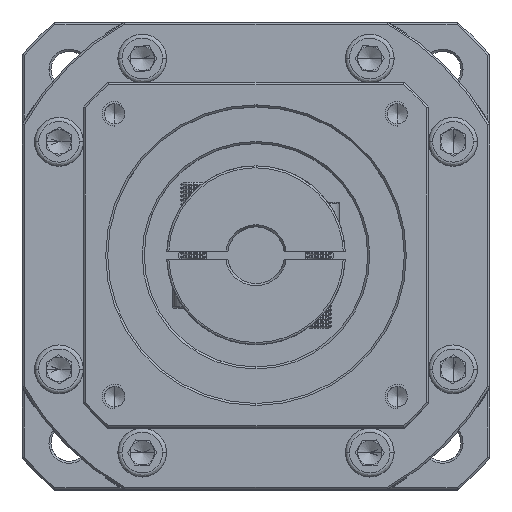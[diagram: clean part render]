
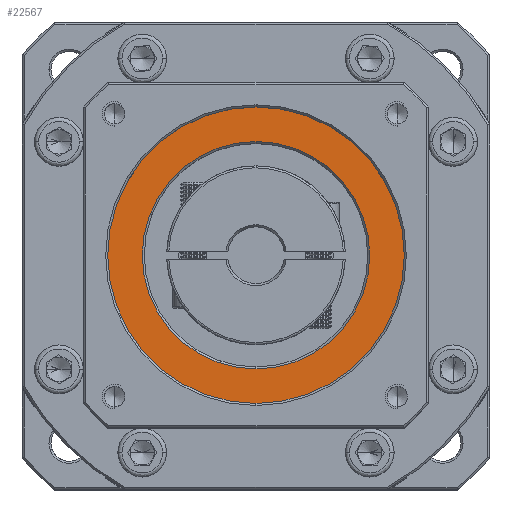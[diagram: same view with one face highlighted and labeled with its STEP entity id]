
A CAD part, top view. The second image highlights one B-rep face of the part: STEP entity #22567.
In plain terms, the highlighted planar face has unit normal (0, 0, 1).
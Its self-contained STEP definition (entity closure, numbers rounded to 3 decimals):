
#4340 = FACE_BOUND ( 'NONE', #136205, .T. ) ;
#6389 = DIRECTION ( 'NONE',  ( 0., 0., -1. ) ) ;
#8872 = CIRCLE ( 'NONE', #34461, 28. ) ;
#12614 = DIRECTION ( 'NONE',  ( 0., 1., 0. ) ) ;
#13366 = ORIENTED_EDGE ( 'NONE', *, *, #111874, .T. ) ;
#13504 = CIRCLE ( 'NONE', #115352, 36.5 ) ;
#15207 = CARTESIAN_POINT ( 'NONE',  ( 68.751, 72.454, -7.408 ) ) ;
#22567 = ADVANCED_FACE ( 'NONE', ( #117721, #4340 ), #98483, .T. ) ;
#22809 = DIRECTION ( 'NONE',  ( 0., 0., 1. ) ) ;
#23781 = CARTESIAN_POINT ( 'NONE',  ( 68.751, 35.954, -7.408 ) ) ;
#24504 = EDGE_LOOP ( 'NONE', ( #29200, #42442 ) ) ;
#25400 = EDGE_CURVE ( 'NONE', #129332, #102721, #32199, .T. ) ;
#29200 = ORIENTED_EDGE ( 'NONE', *, *, #25400, .T. ) ;
#32199 = CIRCLE ( 'NONE', #43307, 36.5 ) ;
#34461 = AXIS2_PLACEMENT_3D ( 'NONE', #41002, #115616, #125469 ) ;
#34932 = VERTEX_POINT ( 'NONE', #130666 ) ;
#41002 = CARTESIAN_POINT ( 'NONE',  ( 68.751, 72.454, -7.408 ) ) ;
#42442 = ORIENTED_EDGE ( 'NONE', *, *, #137543, .T. ) ;
#43307 = AXIS2_PLACEMENT_3D ( 'NONE', #65319, #22809, #12614 ) ;
#45216 = DIRECTION ( 'NONE',  ( 0., 0., 1. ) ) ;
#49176 = CARTESIAN_POINT ( 'NONE',  ( 68.751, 72.454, -7.408 ) ) ;
#50551 = DIRECTION ( 'NONE',  ( 0., 0., 1. ) ) ;
#56915 = CARTESIAN_POINT ( 'NONE',  ( 68.751, 72.454, -7.408 ) ) ;
#65319 = CARTESIAN_POINT ( 'NONE',  ( 68.751, 72.454, -7.408 ) ) ;
#67633 = DIRECTION ( 'NONE',  ( 0., 1., 0. ) ) ;
#72916 = EDGE_CURVE ( 'NONE', #34932, #95547, #92232, .T. ) ;
#73416 = AXIS2_PLACEMENT_3D ( 'NONE', #15207, #6389, #89858 ) ;
#89858 = DIRECTION ( 'NONE',  ( 0., 1., 0. ) ) ;
#90737 = ORIENTED_EDGE ( 'NONE', *, *, #72916, .T. ) ;
#92044 = CARTESIAN_POINT ( 'NONE',  ( 68.751, 108.954, -7.408 ) ) ;
#92232 = CIRCLE ( 'NONE', #73416, 28. ) ;
#95547 = VERTEX_POINT ( 'NONE', #121566 ) ;
#98483 = PLANE ( 'NONE',  #124181 ) ;
#102721 = VERTEX_POINT ( 'NONE', #23781 ) ;
#111874 = EDGE_CURVE ( 'NONE', #95547, #34932, #8872, .T. ) ;
#114846 = DIRECTION ( 'NONE',  ( 0., 1., 0. ) ) ;
#115352 = AXIS2_PLACEMENT_3D ( 'NONE', #49176, #50551, #114846 ) ;
#115616 = DIRECTION ( 'NONE',  ( 0., 0., -1. ) ) ;
#117721 = FACE_OUTER_BOUND ( 'NONE', #24504, .T. ) ;
#121566 = CARTESIAN_POINT ( 'NONE',  ( 68.751, 44.454, -7.408 ) ) ;
#124181 = AXIS2_PLACEMENT_3D ( 'NONE', #56915, #45216, #67633 ) ;
#125469 = DIRECTION ( 'NONE',  ( 0., 1., 0. ) ) ;
#129332 = VERTEX_POINT ( 'NONE', #92044 ) ;
#130666 = CARTESIAN_POINT ( 'NONE',  ( 68.751, 100.454, -7.408 ) ) ;
#136205 = EDGE_LOOP ( 'NONE', ( #90737, #13366 ) ) ;
#137543 = EDGE_CURVE ( 'NONE', #102721, #129332, #13504, .T. ) ;
